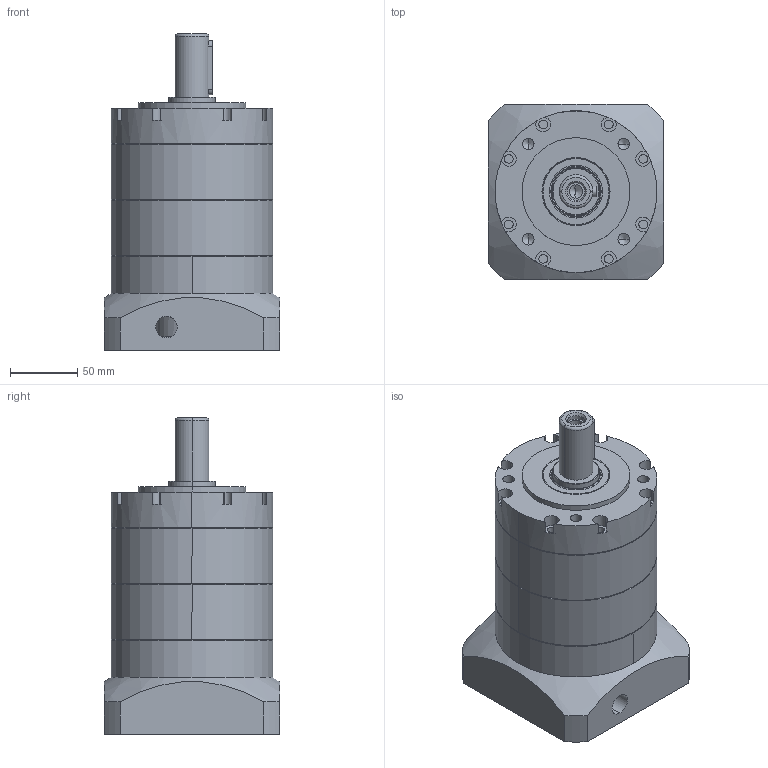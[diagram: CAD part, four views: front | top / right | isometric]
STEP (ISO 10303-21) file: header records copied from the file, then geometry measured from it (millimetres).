
FILE_DESCRIPTION (( 'STEP AP203' ), '1' );
FILE_NAME ('TPG120-L2-22-110-145.STEP', '2024-07-03T06:06:20', ( 'Windows User' ), ( 'P R C' ), 'SwSTEP 2.0', 'SolidWorks 2016', '' );
FILE_SCHEMA (( 'CONFIG_CONTROL_DESIGN' ));
Length unit declared in the file: millimetre
Products named in the file (9): TPG120-帣釱; TPG120-薊粣ん_LZ03; TC35-50-8_TC-34.9-55-7; 内六角圆柱头螺钉M8×25; 深沟球轴承 ZC6009ZZ; 邧埴瑩 8x7x40; TPG120-L2-22-110-145; TPG120-奻裔啣; TPG120-内齿圈
Assembly tree (9 placements, depth 2):
  TPG120-L2-22-110-145
    TPG120-奻裔啣
    TPG120-内齿圈  x2
    TPG120-帣釱
    TPG120-薊粣ん_LZ03
    TC35-50-8_TC-34.9-55-7
    内六角圆柱头螺钉M8×25
    深沟球轴承 ZC6009ZZ
    邧埴瑩 8x7x40
Bounding box: 130 x 130 x 234.5 mm (x, y, z)
Volume: 1950976.8 mm3; surface area: 269871.5 mm2
Topology: 9 solids, 9 shells, 1022 faces, 2764 edges, 1802 vertices
Faces by surface type: plane 518, cylinder 166, bspline 118, sphere 84, cone 72, torus 64
Entity records: 44025 total; most frequent: CARTESIAN_POINT 18676, ORIENTED_EDGE 5346, DIRECTION 4586, EDGE_CURVE 2673, VERTEX_POINT 1756, AXIS2_PLACEMENT_3D 1560, LINE 1466, VECTOR 1466
